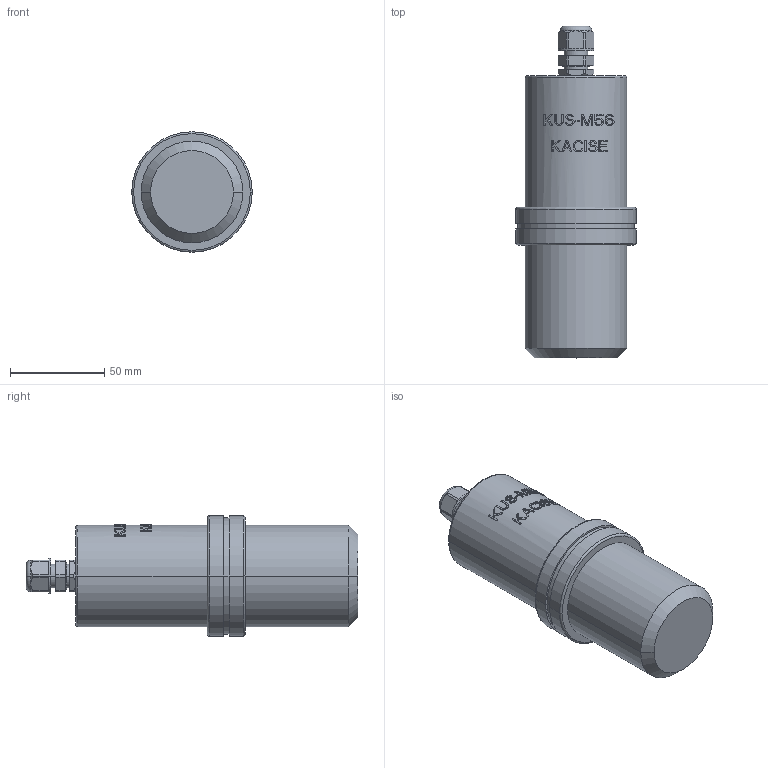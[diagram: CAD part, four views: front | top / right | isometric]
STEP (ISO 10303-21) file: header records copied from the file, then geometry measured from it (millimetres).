
FILE_DESCRIPTION((''),'2;1');
FILE_NAME('ASM0005_ASM','2026-01-23T11:15:05',('28740194'),(''),'CREO PARAMETRIC BY PTC INC, 2024063','CREO PARAMETRIC BY PTC INC, 2024063','');
FILE_SCHEMA(('CONFIG_CONTROL_DESIGN'));
Length unit declared in the file: millimetre
Products named in the file (9): KUS-M56; EV214_27005336_DUMMY_MIR; EV214_27005336_02_MIR; EV214_27005336_03_MIR; EV214_27005336_04_MIR; EV214_27005336_06_MIR; EV214_27005336_07_MIR; ASM0003__ASM; ASM0005_ASM
Assembly tree (8 placements, depth 3):
  ASM0005_ASM
    KUS-M56
    ASM0003__ASM
      EV214_27005336_DUMMY_MIR
      EV214_27005336_02_MIR
      EV214_27005336_03_MIR
      EV214_27005336_04_MIR
      EV214_27005336_06_MIR
      EV214_27005336_07_MIR
Bounding box: 64 x 176.33 x 64 mm (x, y, z)
Volume: 363327.3 mm3; surface area: 38445.3 mm2
Topology: 6 solids, 10 shells, 615 faces, 1718 edges, 1144 vertices
Faces by surface type: plane 273, bspline 229, cylinder 89, cone 12, torus 12
Entity records: 24720 total; most frequent: CARTESIAN_POINT 9745, ORIENTED_EDGE 3420, DIRECTION 2550, EDGE_CURVE 1718, VERTEX_POINT 1144, AXIS2_PLACEMENT_3D 857, VECTOR 836, LINE 836
